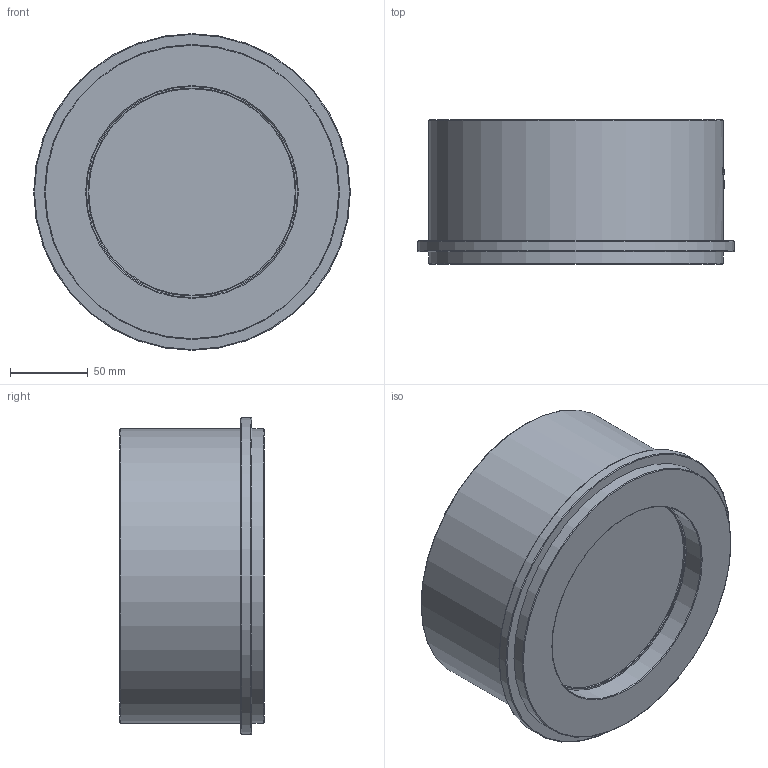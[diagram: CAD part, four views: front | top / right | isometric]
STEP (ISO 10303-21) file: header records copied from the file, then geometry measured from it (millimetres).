
FILE_DESCRIPTION(('STEP AP242'), '1');
FILE_NAME('VCS3232-Fb Êëàïàí îáðàòíûé ïðóæèííûé DN.ru Äó150 Ðó25', '', ('UNSPECIFIED'), ('UNSPECIFIED'), 'C3D Converter', 'C3D Toolkit', '');
FILE_SCHEMA(('AP242_MANAGED_MODEL_BASED_3D_ENGINEERING_MIM_LF { 1 0 10303 442 1 1 4 }'));
Length unit declared in the file: millimetre
Products named in the file (1): VCS3232-Fb
Bounding box: 204 x 93 x 204 mm (x, y, z)
Volume: 1087509.9 mm3; surface area: 222497.2 mm2
Topology: 1 solids, 1 shells, 137 faces, 365 edges, 246 vertices
Faces by surface type: plane 53, extrusion 40, cylinder 29, torus 10, bspline 3, cone 2
Full cylindrical faces by diameter (mm): 20 x2, 44 x2, 134 x1, 136 x2, 144 x1, 145 x1, 166 x1, 190 x2, 204 x1
Entity records: 10593 total; most frequent: CARTESIAN_POINT 7322, ORIENTED_EDGE 674, DIRECTION 549, EDGE_CURVE 337, VERTEX_POINT 246, AXIS2_PLACEMENT_3D 201, EDGE_LOOP 189, FACE_BOUND 169
